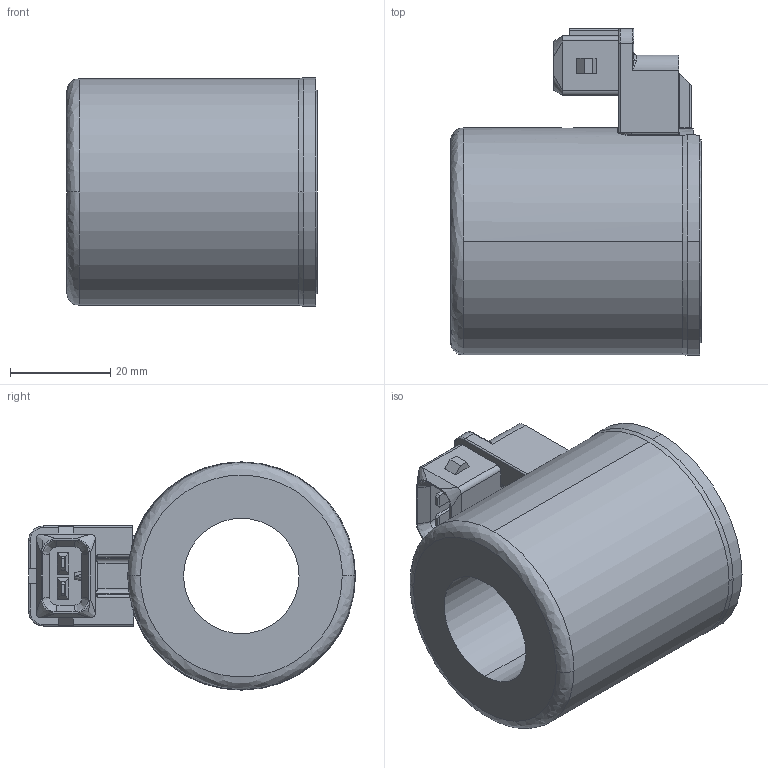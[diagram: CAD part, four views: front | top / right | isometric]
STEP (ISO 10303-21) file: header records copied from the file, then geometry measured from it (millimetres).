
FILE_DESCRIPTION (( 'STEP AP203' ), '1' );
FILE_NAME ('WJE45_23x50.step', '2013-07-26T08:01:00', ( 'Wandfluh AG' ), ( 'Wandfluh AG' ), 'SwSTEP 2.0', 'SolidWorks 2012', '' );
FILE_SCHEMA (( 'CONFIG_CONTROL_DESIGN' ));
Length unit declared in the file: millimetre
Products named in the file (1): WJE45_23x50
Bounding box: 50.1 x 65.3 x 45.6 mm (x, y, z)
Volume: 65036.1 mm3; surface area: 15922.8 mm2
Topology: 1 solids, 1 shells, 201 faces, 520 edges, 323 vertices
Faces by surface type: plane 101, cylinder 56, bspline 42, cone 2
Entity records: 8060 total; most frequent: CARTESIAN_POINT 3423, ORIENTED_EDGE 1036, DIRECTION 836, EDGE_CURVE 518, VERTEX_POINT 323, LINE 302, VECTOR 302, AXIS2_PLACEMENT_3D 267
